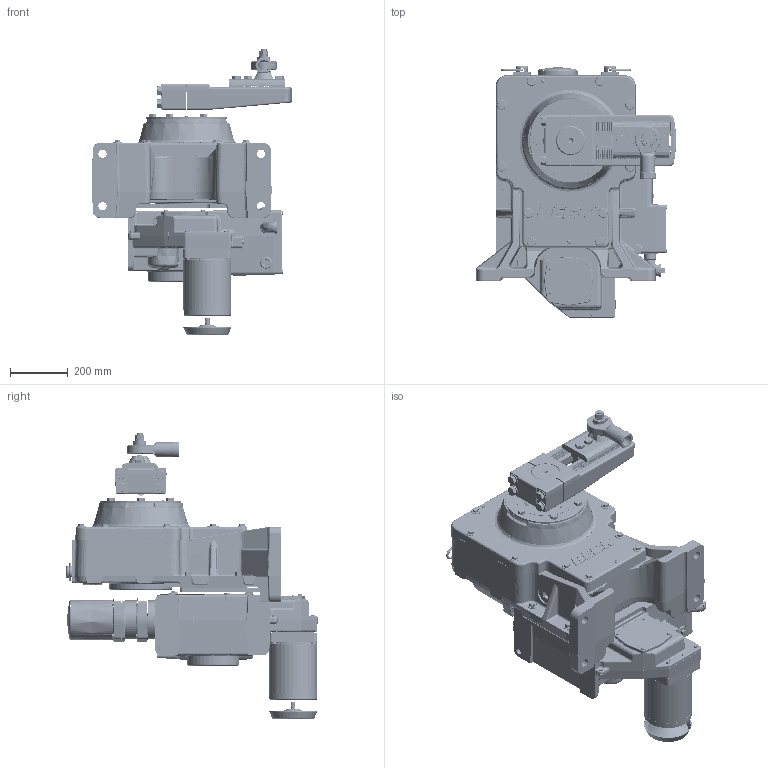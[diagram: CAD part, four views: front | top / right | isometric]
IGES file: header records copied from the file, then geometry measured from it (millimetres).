
Start section: SolidWorks IGES file using analytic representation for surfaces
Global section: file name: N:\Engineering\Product Support\Outline Dimension Models\11-430\18-0430-01 with 14-8022-42 crank arm.IGS; native system: SolidWorks 2011; preprocessor: SolidWorks 2011; author: Jmack; date: 120717.123538; units: inch
Bounding box: 691.44 x 868.09 x 984.8 mm (x, y, z)
Surface area: 3642938 mm2 (no closed solid volume)
Topology: 0 solids, 0 shells, 3531 faces, 58114 edges, 58019 vertices
Faces by surface type: bspline 2074, revolution 1457
